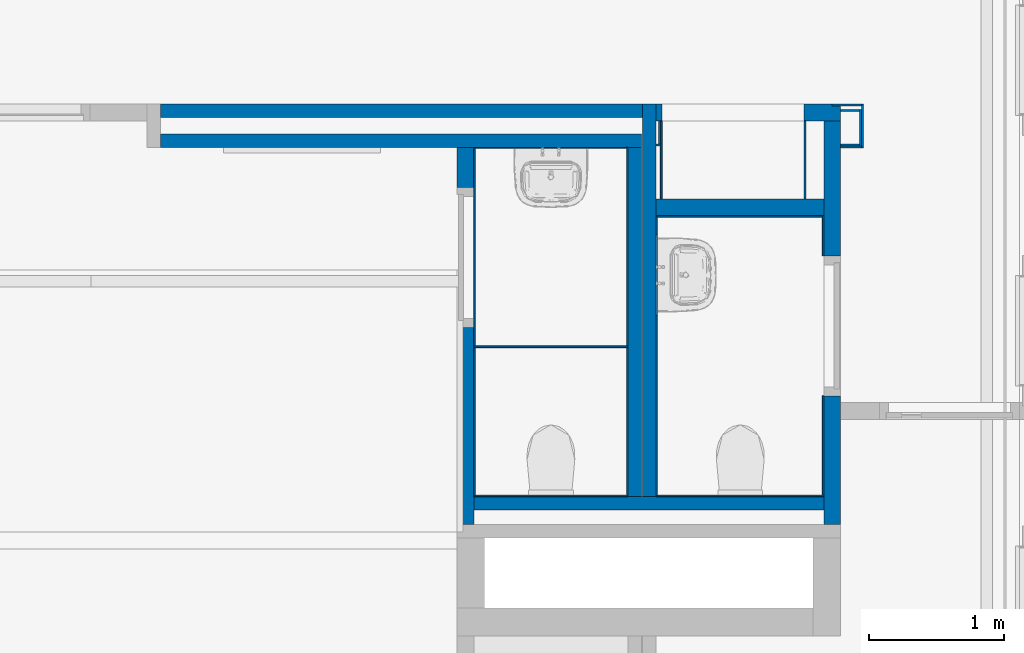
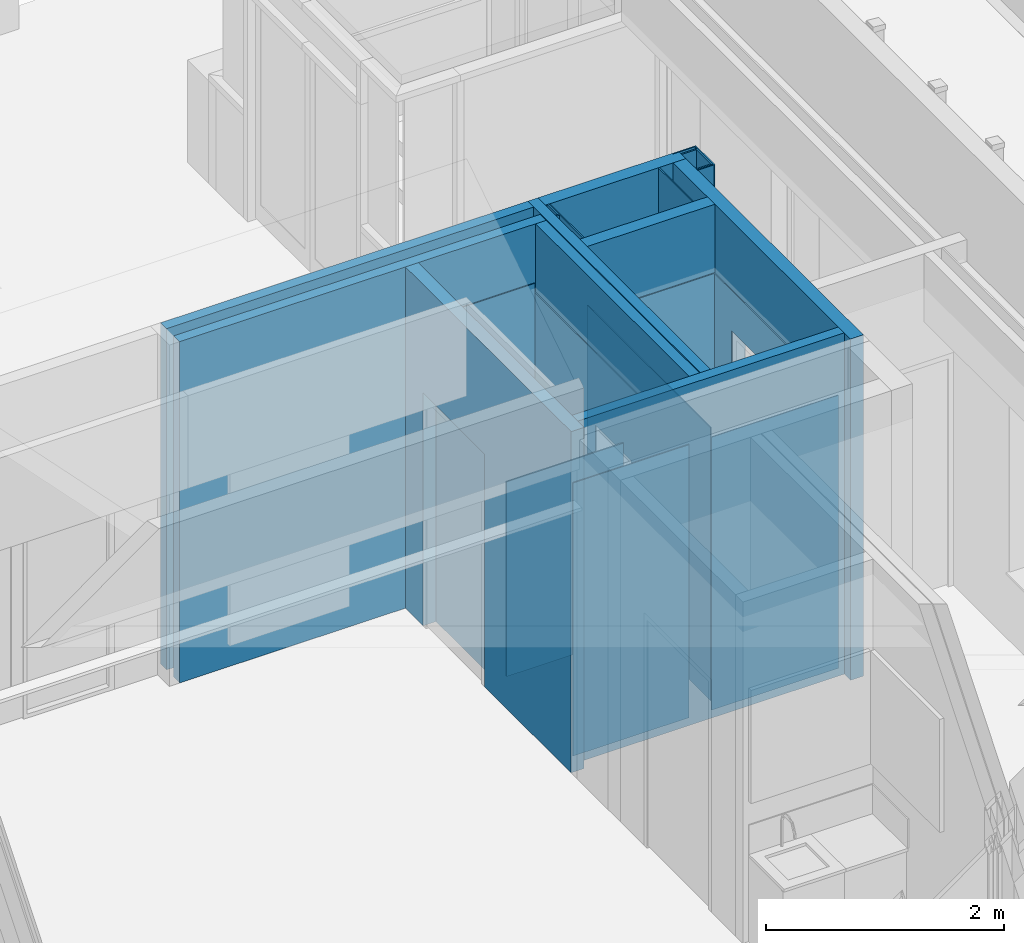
# One storey, part 44 of 118: 28 walls, 6 openings.
"""IFC2X3 building model written with IfcOpenShell, lengths in millimetres."""

from ifc_helpers import new_model, entity, si_unit, converted_unit, derived_unit, direction, frame, frame_2d, origin, place, context, subcontext, project, spatial, rectangle, extrude, material, layer, layer_set, layer_usage, type_object, element, save


model = new_model("IFC2X3")

# Units and contexts
model_context = context("Model", 3, precision=0.01, world=origin(), true_north=direction((6.123031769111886e-17, 1.0)))
plan_context = context("Plan", 3, precision=0.01, world=origin(), true_north=direction((6.123031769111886e-17, 1.0)))
body_context = subcontext(model_context, "Body", "Model", "MODEL_VIEW")
ifc_project = project(units=[si_unit("LENGTHUNIT", "METRE", prefix="MILLI"), si_unit("AREAUNIT", "SQUARE_METRE"), si_unit("VOLUMEUNIT", "CUBIC_METRE"), converted_unit("PLANEANGLEUNIT", "DEGREE", entity("IfcRatioMeasure", 0.017453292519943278), si_unit("PLANEANGLEUNIT", "RADIAN"), dimensions=[0, 0, 0, 0, 0, 0, 0]), si_unit("MASSUNIT", "GRAM", prefix="KILO"), derived_unit("MASSDENSITYUNIT", [(si_unit("MASSUNIT", "GRAM", prefix="KILO"), 1), (si_unit("LENGTHUNIT", "METRE"), -3)]), derived_unit("IONCONCENTRATIONUNIT", [(si_unit("MASSUNIT", "GRAM", prefix="KILO"), 1), (si_unit("LENGTHUNIT", "METRE"), -3)]), derived_unit("MOMENTOFINERTIAUNIT", [(si_unit("LENGTHUNIT", "METRE"), 4)]), si_unit("TIMEUNIT", "SECOND"), si_unit("FREQUENCYUNIT", "HERTZ"), si_unit("THERMODYNAMICTEMPERATUREUNIT", "DEGREE_CELSIUS"), derived_unit("THERMALTRANSMITTANCEUNIT", [(si_unit("MASSUNIT", "GRAM", prefix="KILO"), 1), (si_unit("THERMODYNAMICTEMPERATUREUNIT", "KELVIN"), -1), (si_unit("TIMEUNIT", "SECOND"), -3)]), derived_unit("THERMALCONDUCTANCEUNIT", [(si_unit("MASSUNIT", "GRAM", prefix="KILO"), 1), (si_unit("THERMODYNAMICTEMPERATUREUNIT", "KELVIN"), -1), (si_unit("TIMEUNIT", "SECOND"), -3), (si_unit("LENGTHUNIT", "METRE"), 1)]), derived_unit("VOLUMETRICFLOWRATEUNIT", [(si_unit("LENGTHUNIT", "METRE"), 3), (si_unit("TIMEUNIT", "SECOND"), -1)]), derived_unit("MASSFLOWRATEUNIT", [(si_unit("MASSUNIT", "GRAM", prefix="KILO"), 1), (si_unit("TIMEUNIT", "SECOND"), -1)]), derived_unit("ROTATIONALFREQUENCYUNIT", [(si_unit("TIMEUNIT", "SECOND"), -1)]), si_unit("ELECTRICCURRENTUNIT", "AMPERE"), si_unit("ELECTRICVOLTAGEUNIT", "VOLT"), si_unit("POWERUNIT", "WATT"), si_unit("FORCEUNIT", "NEWTON", prefix="KILO"), si_unit("ILLUMINANCEUNIT", "LUX"), si_unit("LUMINOUSFLUXUNIT", "LUMEN"), si_unit("LUMINOUSINTENSITYUNIT", "CANDELA"), derived_unit("USERDEFINED", [(si_unit("MASSUNIT", "GRAM", prefix="KILO"), -1), (si_unit("LENGTHUNIT", "METRE"), -2), (si_unit("TIMEUNIT", "SECOND"), 3), (si_unit("LUMINOUSFLUXUNIT", "LUMEN"), 1)]), derived_unit("USERDEFINED", [(si_unit("MASSUNIT", "GRAM", prefix="KILO"), 1), (si_unit("TIMEUNIT", "SECOND"), -3), (si_unit("LENGTHUNIT", "METRE"), 3), (si_unit("ELECTRICCURRENTUNIT", "AMPERE"), -2)]), derived_unit("SOUNDPOWERUNIT", [(si_unit("MASSUNIT", "GRAM", prefix="KILO"), 1), (si_unit("TIMEUNIT", "SECOND"), -3), (si_unit("LENGTHUNIT", "METRE"), 2)]), derived_unit("SOUNDPRESSUREUNIT", [(si_unit("MASSUNIT", "GRAM", prefix="KILO"), 1), (si_unit("LENGTHUNIT", "METRE"), -1), (si_unit("TIMEUNIT", "SECOND"), -2)]), derived_unit("LINEARVELOCITYUNIT", [(si_unit("LENGTHUNIT", "METRE"), 1), (si_unit("TIMEUNIT", "SECOND"), -1)]), si_unit("PRESSUREUNIT", "PASCAL"), derived_unit("USERDEFINED", [(si_unit("MASSUNIT", "GRAM", prefix="KILO"), 1), (si_unit("LENGTHUNIT", "METRE"), -2), (si_unit("TIMEUNIT", "SECOND"), -2)]), derived_unit("LINEARFORCEUNIT", [(si_unit("MASSUNIT", "GRAM", prefix="KILO"), 1), (si_unit("TIMEUNIT", "SECOND"), -2)]), derived_unit("PLANARFORCEUNIT", [(si_unit("MASSUNIT", "GRAM", prefix="KILO"), 1), (si_unit("LENGTHUNIT", "METRE"), -1), (si_unit("TIMEUNIT", "SECOND"), -2)]), derived_unit("SPECIFICHEATCAPACITYUNIT", [(si_unit("THERMODYNAMICTEMPERATUREUNIT", "KELVIN"), -1), (si_unit("LENGTHUNIT", "METRE"), 2), (si_unit("TIMEUNIT", "SECOND"), -2)]), derived_unit("HEATINGVALUEUNIT", [(si_unit("LENGTHUNIT", "METRE"), 2), (si_unit("TIMEUNIT", "SECOND"), -2)]), derived_unit("VAPORPERMEABILITYUNIT", [(si_unit("LENGTHUNIT", "METRE"), -1), (si_unit("TIMEUNIT", "SECOND"), 1)]), derived_unit("DYNAMICVISCOSITYUNIT", [(si_unit("MASSUNIT", "GRAM", prefix="KILO"), 1), (si_unit("TIMEUNIT", "SECOND"), -1), (si_unit("LENGTHUNIT", "METRE"), -1)]), derived_unit("THERMALEXPANSIONCOEFFICIENTUNIT", [(si_unit("THERMODYNAMICTEMPERATUREUNIT", "KELVIN"), -1)]), derived_unit("MODULUSOFELASTICITYUNIT", [(si_unit("MASSUNIT", "GRAM", prefix="KILO"), 1), (si_unit("LENGTHUNIT", "METRE"), -1), (si_unit("TIMEUNIT", "SECOND"), -2)]), derived_unit("ISOTHERMALMOISTURECAPACITYUNIT", [(si_unit("LENGTHUNIT", "METRE"), 3), (si_unit("MASSUNIT", "GRAM", prefix="KILO"), -1)]), derived_unit("MOISTUREDIFFUSIVITYUNIT", [(si_unit("TIMEUNIT", "SECOND"), -1), (si_unit("LENGTHUNIT", "METRE"), 2)])], contexts=[model_context, plan_context])

# Site, building, storey
site_placement = place(None, origin())
site = spatial("IfcSite", under=ifc_project, at=site_placement, Name="Locatie", CompositionType="ELEMENT")
building_placement = place(site_placement, origin())
building = spatial("IfcBuilding", under=site, at=building_placement, Name="Bouwwerk", CompositionType="ELEMENT")
storey_placement = place(building_placement, frame((0.0, 0.0, 7800.0)))
storey = spatial("IfcBuildingStorey", under=building, at=storey_placement, Name="02 tweede verdieping", CompositionType="ELEMENT", Elevation=7800.000000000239)

# Wall, opening
ifc_material_1 = material(Name="f7_gipsvezel")
ifc_layer_1 = layer(ifc_material_1, 12.5)
ifc_material_2 = material(Name="f7_gips")
ifc_layer_2 = layer(ifc_material_2, 12.5)
ifc_material_3 = material(Name="n7_isolatie_glaswol")
ifc_layer_3 = layer(ifc_material_3, 75.0)
ifc_layer_4 = layer(ifc_material_2, 12.5)
ifc_layer_5 = layer(ifc_material_1, 12.5)
ifc_layer_set_1 = layer_set([ifc_layer_1, ifc_layer_2, ifc_layer_3, ifc_layer_4, ifc_layer_5], Name="Basic Wall: 25-75-25 _gen_bdg")
ifc_layer_usage_1 = layer_usage(ifc_layer_set_1, "AXIS2", "NEGATIVE", 62.50000000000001)
wall_type_1 = type_object("IfcWallType", Name="Basic Wall: 25-75-25 _gen_bdg", PredefinedType="STANDARD", material=ifc_layer_set_1)
wall_1_placement = place(storey_placement, frame((31916.50000055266, 17812.499999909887, 0.0)))
wall_1 = element("IfcWallStandardCase", 1, at=wall_1_placement, inside=storey, type_object=wall_type_1, material=ifc_layer_usage_1, Name="Basic Wall: 25-75-25 _gen_bdg", ObjectType="Basic Wall: 25-75-25 _gen_bdg", context=body_context, shape_type="SweptSolid", body=[
    extrude(rectangle(XDim=1363.4999994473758, YDim=125.0000000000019, at=frame_2d((681.7499997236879, 6.039613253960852e-14), x_axis=(-1.0, 0.0))), origin(), (0.0, 0.0, 1.0), 3500.0000000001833),
])
opening_1_placement = place(wall_1_placement, origin())
element("IfcOpeningElement", 2, at=opening_1_placement, cuts=wall_1, Name="Basic Wall: 25-75-25 _gen_bdg", ObjectType="Opening", context=body_context, shape_type="SweptSolid", body=[
    extrude(rectangle(XDim=2387.000000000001, YDim=1049.9999999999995, at=frame_2d((0.0, 2.1600499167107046e-12), x_axis=(1.0, 0.0))), frame((569.0, -62.50000000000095, 1193.4999999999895), z_axis=(0.0, 1.0, 0.0), x_axis=(0.0, 0.0, -1.0)), (0.0, 0.0, 1.0), 125.0000000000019),
])

wall_2_placement = place(storey_placement, frame((30507.49999264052, 14770.0, 0.0), z_axis=(0.0, 0.0, 1.0), x_axis=(0.0, 1.0, 0.0)))
wall_2 = element("IfcWallStandardCase", 3, at=wall_2_placement, inside=storey, type_object=wall_type_1, material=ifc_layer_usage_1, Name="Basic Wall: 25-75-25 _gen_bdg", ObjectType="Basic Wall: 25-75-25 _gen_bdg", context=body_context, shape_type="SweptSolid", body=[
    extrude(rectangle(XDim=2784.9999999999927, YDim=125.0000000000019, at=frame_2d((1392.4999999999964, -2.014388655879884e-12), x_axis=(1.0, 0.0))), origin(), (0.0, 0.0, 1.0), 3500.0000000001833),
])
opening_2_placement = place(wall_2_placement, frame((-14770.0, 30507.49999264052, 0.0), z_axis=(0.0, 0.0, 1.0), x_axis=(0.0, -1.0, 0.0)))
element("IfcOpeningElement", 4, at=opening_2_placement, cuts=wall_2, Name="Basic Wall: 25-75-25 _gen_bdg", ObjectType="Opening", context=body_context, shape_type="SweptSolid", body=[
    extrude(rectangle(XDim=2387.000000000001, YDim=1034.000000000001, at=frame_2d((1.1368683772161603e-12, 1.0800249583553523e-12), x_axis=(1.0, 0.0))), frame((32094.0, 16740.50000815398, 1193.4999999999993), z_axis=(-1.0, 0.0, 0.0), x_axis=(0.0, 0.0, 1.0)), (0.0, 0.0, 1.0), 3048.0),
])

wall_3_placement = place(storey_placement, frame((33217.50000000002, 14770.0, 0.0), z_axis=(0.0, 0.0, 1.0), x_axis=(0.0, 1.0, 0.0)))
wall_3 = element("IfcWallStandardCase", 5, at=wall_3_placement, inside=storey, type_object=wall_type_1, material=ifc_layer_usage_1, Name="Basic Wall: 25-75-25 _gen_bdg", ObjectType="Basic Wall: 25-75-25 _gen_bdg", context=body_context, shape_type="SweptSolid", body=[
    extrude(rectangle(XDim=2979.9999999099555, YDim=125.0000000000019, at=frame_2d((1489.9999999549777, -2.7000623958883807e-12), x_axis=(1.0, 0.0))), origin(), (0.0, 0.0, 1.0), 3500.0000000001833),
])
opening_3_placement = place(wall_3_placement, frame((-14770.0, 33217.50000000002, 0.0), z_axis=(0.0, 0.0, 1.0), x_axis=(0.0, -1.0, 0.0)))
element("IfcOpeningElement", 6, at=opening_3_placement, cuts=wall_3, Name="Basic Wall: 25-75-25 _gen_bdg", ObjectType="Opening", context=body_context, shape_type="SweptSolid", body=[
    extrude(rectangle(XDim=2387.000000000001, YDim=1033.9999999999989, at=frame_2d((0.0, 0.0), x_axis=(0.0, 1.0))), frame((34679.0, 16235.500008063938, 1193.5000000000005), z_axis=(-1.0, 0.0, 0.0), x_axis=(0.0, -1.0, 0.0)), (0.0, 0.0, 1.0), 3048.0),
])

# Walls
wall_4_placement = place(storey_placement, frame((31916.50000055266, 17112.49999990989, 0.0)))
element("IfcWallStandardCase", 7, at=wall_4_placement, inside=storey, type_object=wall_type_1, material=ifc_layer_usage_1, Name="Basic Wall: 25-75-25 _gen_bdg", ObjectType="Basic Wall: 25-75-25 _gen_bdg", context=body_context, shape_type="SweptSolid", body=[
    extrude(rectangle(XDim=1238.499999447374, YDim=125.0000000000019, at=frame_2d((619.249999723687, -1.4921397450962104e-13), x_axis=(-1.0, 0.0))), origin(), (0.0, 0.0, 1.0), 3500.0000000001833),
])
ifc_layer_6 = layer(ifc_material_1, 12.5)
ifc_layer_7 = layer(ifc_material_2, 12.5)
ifc_layer_8 = layer(ifc_material_3, 75.0)
ifc_layer_set_2 = layer_set([ifc_layer_6, ifc_layer_7, ifc_layer_8], Name="Basic Wall:22_WA_voorzetwand_ms100 25-75 _gen_bdg")
ifc_layer_usage_2 = layer_usage(ifc_layer_set_2, "AXIS2", "NEGATIVE", 50.0)
wall_type_2 = type_object("IfcWallType", Name="Basic Wall:22_WA_voorzetwand_ms100 25-75 _gen_bdg", PredefinedType="STANDARD", material=ifc_layer_set_2)
wall_5_placement = place(storey_placement, frame((31866.50000055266, 17875.0, 0.0), z_axis=(0.0, 0.0, 1.0), x_axis=(0.0, -1.0, 0.0)))
element("IfcWallStandardCase", 8, at=wall_5_placement, inside=storey, type_object=wall_type_2, material=ifc_layer_usage_2, Name="Basic Wall:22_WA_voorzetwand_ms100 25-75 _gen_bdg", ObjectType="Basic Wall:22_WA_voorzetwand_ms100 25-75 _gen_bdg", context=body_context, shape_type="SweptSolid", body=[
    extrude(rectangle(XDim=2899.9999989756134, YDim=100.00000000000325, at=frame_2d((1449.9999994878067, 3.055333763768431e-13), x_axis=(-1.0, 0.0))), origin(), (0.0, 0.0, 1.0), 3500.0000000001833),
])
wall_6_placement = place(storey_placement, frame((30570.0, 14925.0, 0.0)))
element("IfcWallStandardCase", 9, at=wall_6_placement, inside=storey, type_object=wall_type_2, material=ifc_layer_usage_2, Name="Basic Wall:22_WA_voorzetwand_ms100 25-75 _gen_bdg", ObjectType="Basic Wall:22_WA_voorzetwand_ms100 25-75 _gen_bdg", context=body_context, shape_type="SweptSolid", body=[
    extrude(rectangle(XDim=2585.0000073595, YDim=99.99999999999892, at=frame_2d((1292.50000367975, -1.4210854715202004e-13), x_axis=(-1.0, 0.0))), origin(), (0.0, 0.0, 1.0), 3500.0000000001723),
])
ifc_layer_usage_3 = layer_usage(ifc_layer_set_2, "AXIS2", "POSITIVE", -50.0)
wall_7_placement = place(storey_placement, frame((31758.50000055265, 17555.0, 0.0), z_axis=(0.0, 0.0, 1.0), x_axis=(0.0, -1.0, 0.0)))
element("IfcWallStandardCase", 10, at=wall_7_placement, inside=storey, type_object=wall_type_2, material=ifc_layer_usage_3, Name="Basic Wall:22_WA_voorzetwand_ms100 25-75 _gen_bdg", ObjectType="Basic Wall:22_WA_voorzetwand_ms100 25-75 _gen_bdg", context=body_context, shape_type="SweptSolid", body=[
    extrude(rectangle(XDim=2579.999999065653, YDim=100.00000000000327, at=frame_2d((1289.9999995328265, -3.197442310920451e-14), x_axis=(-1.0, 0.0))), origin(), (0.0, 0.0, 1.0), 3500.0000000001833),
])
wall_8_placement = place(storey_placement, frame((31808.50000055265, 17605.0, 0.0), z_axis=(0.0, 0.0, 1.0), x_axis=(-1.0, 0.0, 0.0)))
element("IfcWallStandardCase", 11, at=wall_8_placement, inside=storey, type_object=wall_type_2, material=ifc_layer_usage_2, Name="Basic Wall:22_WA_voorzetwand_ms100 25-75 _gen_bdg", ObjectType="Basic Wall:22_WA_voorzetwand_ms100 25-75 _gen_bdg", context=body_context, shape_type="SweptSolid", body=[
    extrude(rectangle(XDim=3553.5000005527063, YDim=99.99999999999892, at=frame_2d((1776.7500002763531, 5.861977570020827e-13), x_axis=(-1.0, 0.0))), origin(), (0.0, 0.0, 1.0), 3500.0000000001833),
])
wall_9_placement = place(storey_placement, frame((28255.0, 17825.0, 0.0)))
element("IfcWallStandardCase", 12, at=wall_9_placement, inside=storey, type_object=wall_type_2, material=ifc_layer_usage_2, Name="Basic Wall:22_WA_voorzetwand_ms100 25-75 _gen_bdg", ObjectType="Basic Wall:22_WA_voorzetwand_ms100 25-75 _gen_bdg", context=body_context, shape_type="SweptSolid", body=[
    extrude(rectangle(XDim=3561.500000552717, YDim=99.99999999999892, at=frame_2d((1780.7500002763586, 3.943512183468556e-13), x_axis=(-1.0, 0.0))), origin(), (0.0, 0.0, 1.0), 3500.0000000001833),
])
ifc_layer_9 = layer(ifc_material_1, 13.000000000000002)
ifc_layer_set_3 = layer_set([ifc_layer_9], Name="Basic Wall:NLRS_41_WA_gips 13_gen_ISR")
ifc_layer_usage_4 = layer_usage(ifc_layer_set_3, "AXIS2", "NEGATIVE", 6.500000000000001)
wall_type_3 = type_object("IfcWallType", Name="Basic Wall:NLRS_41_WA_gips 13_gen_ISR", PredefinedType="STANDARD", material=ifc_layer_set_3)
wall_10_placement = place(storey_placement, frame((33441.50000000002, 17875.0, 0.0), z_axis=(0.0, 0.0, 1.0), x_axis=(0.0, -1.0, 0.0)))
element("IfcWallStandardCase", 13, at=wall_10_placement, inside=storey, type_object=wall_type_3, material=ifc_layer_usage_4, Name="Basic Wall:NLRS_41_WA_gips 13_gen_ISR", ObjectType="Basic Wall:NLRS_41_WA_gips 13_gen_ISR", context=body_context, shape_type="SweptSolid", body=[
    extrude(rectangle(XDim=322.9999999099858, YDim=12.999999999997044, at=frame_2d((161.4999999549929, 0.0), x_axis=(-1.0, 0.0))), origin(), (0.0, 0.0, 1.0), 3500.0000000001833),
])
wall_11_placement = place(storey_placement, frame((33217.50000000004, 17868.499999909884, 0.0)))
element("IfcWallStandardCase", 14, at=wall_11_placement, inside=storey, type_object=wall_type_3, material=ifc_layer_usage_4, Name="Basic Wall:NLRS_41_WA_gips 13_gen_ISR", ObjectType="Basic Wall:NLRS_41_WA_gips 13_gen_ISR", context=body_context, shape_type="SweptSolid", body=[
    extrude(rectangle(XDim=217.49999999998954, YDim=13.000000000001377, at=frame_2d((108.74999999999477, 0.0), x_axis=(-1.0, 0.0))), origin(), (0.0, 0.0, 1.0), 3500.0000000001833),
])
wall_12_placement = place(storey_placement, frame((31954.0, 17750.0, 0.0), z_axis=(0.0, 0.0, 1.0), x_axis=(0.0, -1.0, 0.0)))
element("IfcWallStandardCase", 15, at=wall_12_placement, inside=storey, type_object=wall_type_3, material=ifc_layer_usage_4, Name="Basic Wall:NLRS_41_WA_gips 13_gen_ISR", ObjectType="Basic Wall:NLRS_41_WA_gips 13_gen_ISR", context=body_context, shape_type="SweptSolid", body=[
    extrude(rectangle(XDim=574.9999999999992, YDim=12.999999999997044, at=frame_2d((287.4999999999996, 0.0), x_axis=(-1.0, 0.0))), origin(), (0.0, 0.0, 1.0), 3500.0000000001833),
])
ifc_layer_usage_5 = layer_usage(ifc_layer_set_3, "AXIS2", "POSITIVE", -6.500000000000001)
wall_13_placement = place(storey_placement, frame((33280.0, 17558.499999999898, 0.0)))
element("IfcWallStandardCase", 16, at=wall_13_placement, inside=storey, type_object=wall_type_3, material=ifc_layer_usage_5, Name="Basic Wall:NLRS_41_WA_gips 13_gen_ISR", ObjectType="Basic Wall:NLRS_41_WA_gips 13_gen_ISR", context=body_context, shape_type="SweptSolid", body=[
    extrude(rectangle(XDim=154.99999999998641, YDim=13.000000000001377, at=frame_2d((77.49999999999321, 0.0), x_axis=(-1.0, 0.0))), origin(), (0.0, 0.0, 1.0), 3500.0000000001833),
])
wall_14_placement = place(storey_placement, frame((33017.0, 17750.0, 0.0), z_axis=(0.0, 0.0, 1.0), x_axis=(0.0, -1.0, 0.0)))
element("IfcWallStandardCase", 17, at=wall_14_placement, inside=storey, type_object=wall_type_3, material=ifc_layer_usage_5, Name="Basic Wall:NLRS_41_WA_gips 13_gen_ISR", ObjectType="Basic Wall:NLRS_41_WA_gips 13_gen_ISR", context=body_context, shape_type="SweptSolid", body=[
    extrude(rectangle(XDim=574.9999999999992, YDim=12.999999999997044, at=frame_2d((287.4999999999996, 0.0), x_axis=(-1.0, 0.0))), origin(), (0.0, 0.0, 1.0), 3500.0000000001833),
])
ifc_material_4 = material(Name="a_binnenwand_gen")
ifc_layer_10 = layer(ifc_material_4, 13.000000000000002)
ifc_layer_set_4 = layer_set([ifc_layer_10], Name="Basic Wall:NLRS_41_WA_sanitairwand 13_gen_ISR")
ifc_layer_usage_6 = layer_usage(ifc_layer_set_4, "AXIS2", "NEGATIVE", 6.500000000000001)
wall_type_4 = type_object("IfcWallType", Name="Basic Wall:NLRS_41_WA_sanitairwand 13_gen_ISR", PredefinedType="STANDARD", material=ifc_layer_set_4)
wall_15_placement = place(storey_placement, frame((31708.500000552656, 16081.500000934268, 150.0), z_axis=(0.0, 0.0, 1.0), x_axis=(-1.0, 0.0, 0.0)))
element("IfcWallStandardCase", 18, at=wall_15_placement, inside=storey, type_object=wall_type_4, material=ifc_layer_usage_6, Name="Basic Wall:NLRS_41_WA_sanitairwand 13_gen_ISR", ObjectType="Basic Wall:NLRS_41_WA_sanitairwand 13_gen_ISR", context=body_context, shape_type="SweptSolid", body=[
    extrude(rectangle(XDim=1138.50000791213, YDim=13.000000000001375, at=frame_2d((569.250003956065, 1.8207657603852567e-13), x_axis=(-1.0, 0.0))), origin(), (0.0, 0.0, 1.0), 2000.0000000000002),
])

# Wall, opening
ifc_material_5 = material(Name="g3_tegels_creme_150x150")
ifc_layer_11 = layer(ifc_material_5, 10.0)
ifc_layer_set_5 = layer_set([ifc_layer_11], Name="Basic Wall:21_WA_tegelwerk 10")
ifc_layer_usage_7 = layer_usage(ifc_layer_set_5, "AXIS2", "NEGATIVE", 4.999999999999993)
wall_type_5 = type_object("IfcWallType", Name="Basic Wall:21_WA_tegelwerk 10", PredefinedType="STANDARD", material=ifc_layer_set_5)
wall_16_placement = place(storey_placement, frame((30570.0, 17550.0, 100.0)))
wall_16 = element("IfcWallStandardCase", 19, at=wall_16_placement, inside=storey, type_object=wall_type_5, material=ifc_layer_usage_7, Name="Basic Wall:21_WA_tegelwerk 10", ObjectType="Basic Wall:21_WA_tegelwerk 10", context=body_context, shape_type="SweptSolid", body=[
    extrude(rectangle(XDim=1128.5000079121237, YDim=10.000000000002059, at=frame_2d((564.2500039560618, 0.0), x_axis=(-1.0, 0.0))), origin(), (0.0, 0.0, 1.0), 2800.0),
])
opening_4_placement = place(wall_16_placement, origin())
element("IfcOpeningElement", 20, at=opening_4_placement, cuts=wall_16, Name="Basic Wall:21_WA_tegelwerk 10", ObjectType="Opening", context=body_context, shape_type="SweptSolid", body=[
    extrude(rectangle(XDim=749.9999999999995, YDim=899.999999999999, at=frame_2d((-2.1600499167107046e-12, 5.400124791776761e-13), x_axis=(0.0, 1.0))), frame((569.5000000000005, -5.0, 1275.0), z_axis=(0.0, 1.0, 0.0), x_axis=(-1.0, 0.0, 0.0)), (0.0, 0.0, 1.0), 9.999999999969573),
])

# Walls
wall_17_placement = place(storey_placement, frame((30575.0, 14975.0, 0.0), z_axis=(0.0, 0.0, 1.0), x_axis=(0.0, 1.0, 0.0)))
element("IfcWallStandardCase", 21, at=wall_17_placement, inside=storey, type_object=wall_type_5, material=ifc_layer_usage_7, Name="Basic Wall:21_WA_tegelwerk 10", ObjectType="Basic Wall:21_WA_tegelwerk 10", context=body_context, shape_type="SweptSolid", body=[
    extrude(rectangle(XDim=2569.9999990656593, YDim=9.999999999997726, at=frame_2d((1284.9999995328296, 0.0), x_axis=(-1.0, 0.0))), origin(), (0.0, 0.0, 1.0), 2800.0),
])
wall_18_placement = place(storey_placement, frame((31708.500000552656, 14980.0, 0.0), z_axis=(0.0, 0.0, 1.0), x_axis=(-1.0, 0.0, 0.0)))
element("IfcWallStandardCase", 22, at=wall_18_placement, inside=storey, type_object=wall_type_5, material=ifc_layer_usage_7, Name="Basic Wall:21_WA_tegelwerk 10", ObjectType="Basic Wall:21_WA_tegelwerk 10", context=body_context, shape_type="SweptSolid", body=[
    extrude(rectangle(XDim=1128.500007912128, YDim=10.000000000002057, at=frame_2d((564.250003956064, -4.3520742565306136e-14), x_axis=(-1.0, 0.0))), origin(), (0.0, 0.0, 1.0), 2800.0),
])
wall_19_placement = place(storey_placement, frame((31703.500000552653, 17555.0, 0.0), z_axis=(0.0, 0.0, 1.0), x_axis=(0.0, -1.0, 0.0)))
element("IfcWallStandardCase", 23, at=wall_19_placement, inside=storey, type_object=wall_type_5, material=ifc_layer_usage_7, Name="Basic Wall:21_WA_tegelwerk 10", ObjectType="Basic Wall:21_WA_tegelwerk 10", context=body_context, shape_type="SweptSolid", body=[
    extrude(rectangle(XDim=2569.9999990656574, YDim=9.999999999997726, at=frame_2d((1284.9999995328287, 3.375077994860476e-14), x_axis=(-1.0, 0.0))), origin(), (0.0, 0.0, 1.0), 2800.0),
])

# Wall, opening
wall_20_placement = place(storey_placement, frame((31921.50000055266, 14975.0, 100.0), z_axis=(0.0, 0.0, 1.0), x_axis=(0.0, 1.0, 0.0)))
wall_20 = element("IfcWallStandardCase", 24, at=wall_20_placement, inside=storey, type_object=wall_type_5, material=ifc_layer_usage_7, Name="Basic Wall:21_WA_tegelwerk 10", ObjectType="Basic Wall:21_WA_tegelwerk 10", context=body_context, shape_type="SweptSolid", body=[
    extrude(rectangle(XDim=2074.999998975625, YDim=10.000000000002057, at=frame_2d((1037.4999994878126, -2.1658230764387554e-12), x_axis=(-1.0, 0.0))), origin(), (0.0, 0.0, 1.0), 2800.0),
])
opening_5_placement = place(wall_20_placement, origin())
element("IfcOpeningElement", 25, at=opening_5_placement, cuts=wall_20, Name="Basic Wall:21_WA_tegelwerk 10", ObjectType="Opening", context=body_context, shape_type="SweptSolid", body=[
    extrude(rectangle(XDim=749.9999999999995, YDim=600.0, at=frame_2d((-1.0800249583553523e-12, -5.400124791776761e-13), x_axis=(0.0, 1.0))), frame((1637.5000000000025, -5.0, 1275.0), z_axis=(0.0, 1.0, 0.0), x_axis=(-1.0, 0.0, 0.0)), (0.0, 0.0, 1.0), 9.999999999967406),
])

# Wall
wall_21_placement = place(storey_placement, frame((33155.0, 14980.0, 0.0), z_axis=(0.0, 0.0, 1.0), x_axis=(-1.0, 0.0, 0.0)))
element("IfcWallStandardCase", 26, at=wall_21_placement, inside=storey, type_object=wall_type_5, material=ifc_layer_usage_7, Name="Basic Wall:21_WA_tegelwerk 10", ObjectType="Basic Wall:21_WA_tegelwerk 10", context=body_context, shape_type="SweptSolid", body=[
    extrude(rectangle(XDim=1228.4999994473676, YDim=10.000000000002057, at=frame_2d((614.2499997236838, -3.5083047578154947e-14), x_axis=(-1.0, 0.0))), origin(), (0.0, 0.0, 1.0), 2800.0),
])

# Wall, opening
wall_22_placement = place(storey_placement, frame((33150.0, 17050.0, 0.0), z_axis=(0.0, 0.0, 1.0), x_axis=(0.0, -1.0, 0.0)))
wall_22 = element("IfcWallStandardCase", 27, at=wall_22_placement, inside=storey, type_object=wall_type_5, material=ifc_layer_usage_7, Name="Basic Wall:21_WA_tegelwerk 10", ObjectType="Basic Wall:21_WA_tegelwerk 10", context=body_context, shape_type="SweptSolid", body=[
    extrude(rectangle(XDim=2064.9999989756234, YDim=10.000000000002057, at=frame_2d((1032.4999994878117, -1.6586731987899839e-12), x_axis=(1.0, 0.0))), origin(), (0.0, 0.0, 1.0), 2800.0),
])
opening_6_placement = place(wall_22_placement, origin())
element("IfcOpeningElement", 28, at=opening_6_placement, cuts=wall_22, Name="Basic Wall:21_WA_tegelwerk 10", ObjectType="Opening", context=body_context, shape_type="SweptSolid", body=[
    extrude(rectangle(XDim=2387.000000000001, YDim=1034.000000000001, at=frame_2d((1.1368683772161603e-12, -1.0800249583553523e-12), x_axis=(1.0, 0.0))), frame((814.4999918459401, -1519.0, 1193.4999999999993), z_axis=(0.0, 1.0, 0.0), x_axis=(0.0, 0.0, 1.0)), (0.0, 0.0, 1.0), 3048.0),
])

# Walls
wall_23_placement = place(storey_placement, frame((31926.500000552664, 17045.0, 0.0)))
element("IfcWallStandardCase", 29, at=wall_23_placement, inside=storey, type_object=wall_type_5, material=ifc_layer_usage_7, Name="Basic Wall:21_WA_tegelwerk 10", ObjectType="Basic Wall:21_WA_tegelwerk 10", context=body_context, shape_type="SweptSolid", body=[
    extrude(rectangle(XDim=1218.4999994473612, YDim=10.000000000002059, at=frame_2d((609.2499997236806, 0.0), x_axis=(-1.0, 0.0))), origin(), (0.0, 0.0, 1.0), 2800.0),
])
ifc_material_6 = material(Name="ISR_brandwerende beplating")
ifc_layer_12 = layer(ifc_material_6, 15.0)
ifc_layer_set_6 = layer_set([ifc_layer_12], Name="Basic Wall:NLRS_41_WA_brandwerende beplating 15_gen_ISR")
ifc_layer_usage_8 = layer_usage(ifc_layer_set_6, "AXIS2", "NEGATIVE", 7.5)
wall_type_6 = type_object("IfcWallType", Name="Basic Wall:NLRS_41_WA_brandwerende beplating 15_gen_ISR", PredefinedType="STANDARD", material=ifc_layer_set_6)
wall_24_placement = place(storey_placement, frame((33427.50000000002, 17835.0, 0.0), z_axis=(0.0, 0.0, 1.0), x_axis=(0.0, -1.0, 0.0)))
element("IfcWallStandardCase", 30, at=wall_24_placement, inside=storey, type_object=wall_type_6, material=ifc_layer_usage_8, Name="Basic Wall:NLRS_41_WA_brandwerende beplating 15_gen_ISR", ObjectType="Basic Wall:NLRS_41_WA_brandwerende beplating 15_gen_ISR", context=body_context, shape_type="SweptSolid", body=[
    extrude(rectangle(XDim=269.99999999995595, YDim=14.99999999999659, at=frame_2d((134.99999999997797, 0.0), x_axis=(-1.0, 0.0))), origin(), (0.0, 0.0, 1.0), 3500.0000000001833),
])
wall_25_placement = place(storey_placement, frame((33280.0, 17827.49999999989, 0.0)))
element("IfcWallStandardCase", 31, at=wall_25_placement, inside=storey, type_object=wall_type_6, material=ifc_layer_usage_8, Name="Basic Wall:NLRS_41_WA_brandwerende beplating 15_gen_ISR", ObjectType="Basic Wall:NLRS_41_WA_brandwerende beplating 15_gen_ISR", context=body_context, shape_type="SweptSolid", body=[
    extrude(rectangle(XDim=139.9999999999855, YDim=15.000000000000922, at=frame_2d((69.99999999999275, 0.0), x_axis=(-1.0, 0.0))), origin(), (0.0, 0.0, 1.0), 3500.0000000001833),
])
ifc_layer_usage_9 = layer_usage(ifc_layer_set_6, "AXIS2", "POSITIVE", -7.5)
wall_26_placement = place(storey_placement, frame((33280.0, 17572.499999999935, 0.0)))
element("IfcWallStandardCase", 32, at=wall_26_placement, inside=storey, type_object=wall_type_6, material=ifc_layer_usage_9, Name="Basic Wall:NLRS_41_WA_brandwerende beplating 15_gen_ISR", ObjectType="Basic Wall:NLRS_41_WA_brandwerende beplating 15_gen_ISR", context=body_context, shape_type="SweptSolid", body=[
    extrude(rectangle(XDim=139.9999999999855, YDim=15.000000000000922, at=frame_2d((69.99999999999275, 0.0), x_axis=(-1.0, 0.0))), origin(), (0.0, 0.0, 1.0), 3500.0000000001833),
])
wall_27_placement = place(storey_placement, frame((31940.0, 17750.0, 0.0), z_axis=(0.0, 0.0, 1.0), x_axis=(0.0, -1.0, 0.0)))
element("IfcWallStandardCase", 33, at=wall_27_placement, inside=storey, type_object=wall_type_6, material=ifc_layer_usage_8, Name="Basic Wall:NLRS_41_WA_brandwerende beplating 15_gen_ISR", ObjectType="Basic Wall:NLRS_41_WA_brandwerende beplating 15_gen_ISR", context=body_context, shape_type="SweptSolid", body=[
    extrude(rectangle(XDim=169.99999990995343, YDim=14.99999999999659, at=frame_2d((84.99999995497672, 0.0), x_axis=(-1.0, 0.0))), origin(), (0.0, 0.0, 1.0), 3500.0000000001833),
])
wall_28_placement = place(storey_placement, frame((31947.500000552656, 17572.499999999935, 0.0), z_axis=(0.0, 0.0, 1.0), x_axis=(-1.0, 0.0, 0.0)))
element("IfcWallStandardCase", 34, at=wall_28_placement, inside=storey, type_object=wall_type_6, material=ifc_layer_usage_8, Name="Basic Wall:NLRS_41_WA_brandwerende beplating 15_gen_ISR", ObjectType="Basic Wall:NLRS_41_WA_brandwerende beplating 15_gen_ISR", context=body_context, shape_type="SweptSolid", body=[
    extrude(rectangle(XDim=30.999999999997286, YDim=15.000000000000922, at=frame_2d((15.499999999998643, 0.0), x_axis=(-1.0, 0.0))), origin(), (0.0, 0.0, 1.0), 3500.0000000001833),
])

save(model, "model.ifc")
